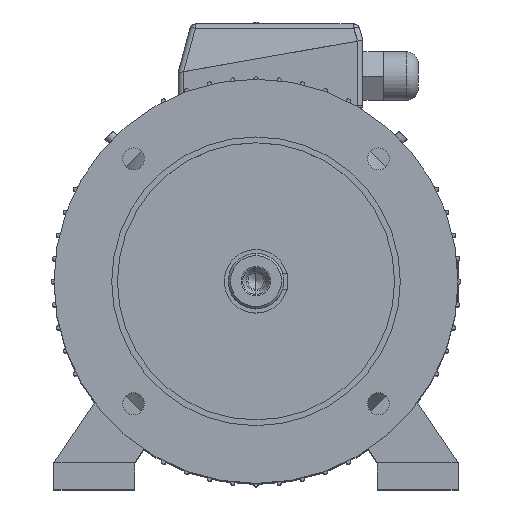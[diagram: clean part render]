
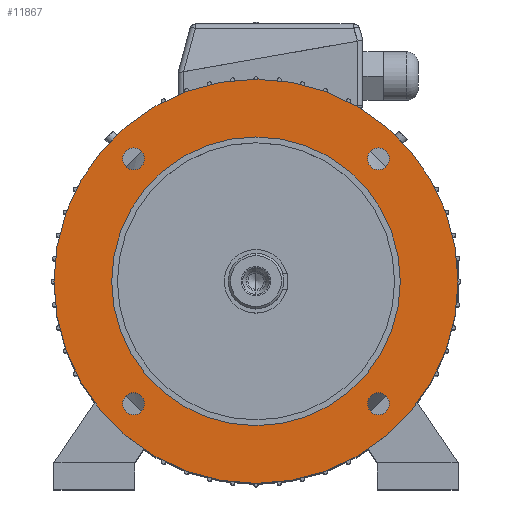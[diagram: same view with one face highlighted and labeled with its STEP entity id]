
A CAD part, top view. The second image highlights one B-rep face of the part: STEP entity #11867.
In plain terms, the highlighted planar face has unit normal (0, 0, 1).
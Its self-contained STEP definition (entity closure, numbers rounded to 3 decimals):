
#44 = VERTEX_POINT ( 'NONE', #2157 ) ;
#199 = EDGE_CURVE ( 'NONE', #8929, #10166, #2505, .T. ) ;
#225 = VERTEX_POINT ( 'NONE', #2546 ) ;
#295 = ORIENTED_EDGE ( 'NONE', *, *, #199, .F. ) ;
#327 = ORIENTED_EDGE ( 'NONE', *, *, #13555, .F. ) ;
#421 = EDGE_LOOP ( 'NONE', ( #295, #1469 ) ) ;
#974 = ORIENTED_EDGE ( 'NONE', *, *, #1853, .F. ) ;
#1049 = VERTEX_POINT ( 'NONE', #4289 ) ;
#1107 = EDGE_CURVE ( 'NONE', #1349, #1049, #4435, .T. ) ;
#1150 = EDGE_LOOP ( 'NONE', ( #974, #5405 ) ) ;
#1349 = VERTEX_POINT ( 'NONE', #4927 ) ;
#1469 = ORIENTED_EDGE ( 'NONE', *, *, #9182, .F. ) ;
#1651 = EDGE_LOOP ( 'NONE', ( #3803, #327 ) ) ;
#1704 = ORIENTED_EDGE ( 'NONE', *, *, #1107, .F. ) ;
#1853 = EDGE_CURVE ( 'NONE', #44, #12759, #6152, .T. ) ;
#2059 = ORIENTED_EDGE ( 'NONE', *, *, #7957, .F. ) ;
#2157 = CARTESIAN_POINT ( 'NONE',  ( 125., 0., 81. ) ) ;
#2505 = CIRCLE ( 'NONE', #2506, 9.5 ) ;
#2506 = AXIS2_PLACEMENT_3D ( 'NONE', #2507, #2508, #2509 ) ;
#2507 = CARTESIAN_POINT ( 'NONE',  ( -106.066, 106.066, 81. ) ) ;
#2508 = DIRECTION ( 'NONE',  ( 0., 0., 1. ) ) ;
#2509 = DIRECTION ( 'NONE',  ( 1., 0., 0. ) ) ;
#2546 = CARTESIAN_POINT ( 'NONE',  ( -115.566, -106.066, 81. ) ) ;
#2634 = EDGE_CURVE ( 'NONE', #7702, #8951, #6865, .T. ) ;
#3010 = ORIENTED_EDGE ( 'NONE', *, *, #2634, .F. ) ;
#3612 = EDGE_CURVE ( 'NONE', #13496, #225, #7407, .T. ) ;
#3803 = ORIENTED_EDGE ( 'NONE', *, *, #3612, .F. ) ;
#4289 = CARTESIAN_POINT ( 'NONE',  ( 115.566, 106.066, 81. ) ) ;
#4435 = CIRCLE ( 'NONE', #4436, 9.5 ) ;
#4436 = AXIS2_PLACEMENT_3D ( 'NONE', #4437, #4438, #4439 ) ;
#4437 = CARTESIAN_POINT ( 'NONE',  ( 106.066, 106.066, 81. ) ) ;
#4438 = DIRECTION ( 'NONE',  ( 0., 0., 1. ) ) ;
#4439 = DIRECTION ( 'NONE',  ( 1., 0., 0. ) ) ;
#4927 = CARTESIAN_POINT ( 'NONE',  ( 96.566, 106.066, 81. ) ) ;
#5028 = EDGE_CURVE ( 'NONE', #12759, #44, #8357, .T. ) ;
#5067 = ORIENTED_EDGE ( 'NONE', *, *, #8492, .T. ) ;
#5405 = ORIENTED_EDGE ( 'NONE', *, *, #5028, .F. ) ;
#5467 = ORIENTED_EDGE ( 'NONE', *, *, #8077, .T. ) ;
#6057 = EDGE_LOOP ( 'NONE', ( #5467, #5067 ) ) ;
#6152 = CIRCLE ( 'NONE', #6153, 125. ) ;
#6153 = AXIS2_PLACEMENT_3D ( 'NONE', #6154, #6155, #6156 ) ;
#6154 = CARTESIAN_POINT ( 'NONE',  ( 0., 0., 81. ) ) ;
#6155 = DIRECTION ( 'NONE',  ( 0., 0., 1. ) ) ;
#6156 = DIRECTION ( 'NONE',  ( 1., 0., 0. ) ) ;
#6437 = EDGE_CURVE ( 'NONE', #1049, #1349, #9101, .T. ) ;
#6774 = EDGE_LOOP ( 'NONE', ( #6852, #1704 ) ) ;
#6852 = ORIENTED_EDGE ( 'NONE', *, *, #6437, .F. ) ;
#6865 = CIRCLE ( 'NONE', #6866, 9.5 ) ;
#6866 = AXIS2_PLACEMENT_3D ( 'NONE', #6867, #6868, #6869 ) ;
#6867 = CARTESIAN_POINT ( 'NONE',  ( 106.066, -106.066, 81. ) ) ;
#6868 = DIRECTION ( 'NONE',  ( 0., 0., 1. ) ) ;
#6869 = DIRECTION ( 'NONE',  ( 1., 0., 0. ) ) ;
#7289 = CARTESIAN_POINT ( 'NONE',  ( -175., 0., 81. ) ) ;
#7407 = CIRCLE ( 'NONE', #7408, 9.5 ) ;
#7408 = AXIS2_PLACEMENT_3D ( 'NONE', #7409, #7410, #7411 ) ;
#7409 = CARTESIAN_POINT ( 'NONE',  ( -106.066, -106.066, 81. ) ) ;
#7410 = DIRECTION ( 'NONE',  ( 0., 0., 1. ) ) ;
#7411 = DIRECTION ( 'NONE',  ( 1., 0., 0. ) ) ;
#7412 = CARTESIAN_POINT ( 'NONE',  ( -96.566, -106.066, 81. ) ) ;
#7702 = VERTEX_POINT ( 'NONE', #9762 ) ;
#7709 = CIRCLE ( 'NONE', #7710, 9.5 ) ;
#7710 = AXIS2_PLACEMENT_3D ( 'NONE', #7711, #7712, #7713 ) ;
#7711 = CARTESIAN_POINT ( 'NONE',  ( -106.066, -106.066, 81. ) ) ;
#7712 = DIRECTION ( 'NONE',  ( 0., 0., 1. ) ) ;
#7713 = DIRECTION ( 'NONE',  ( 1., 0., 0. ) ) ;
#7828 = VERTEX_POINT ( 'NONE', #9832 ) ;
#7957 = EDGE_CURVE ( 'NONE', #8951, #7702, #9911, .T. ) ;
#8077 = EDGE_CURVE ( 'NONE', #7828, #13469, #9976, .T. ) ;
#8223 = EDGE_LOOP ( 'NONE', ( #3010, #2059 ) ) ;
#8357 = CIRCLE ( 'NONE', #8358, 125. ) ;
#8358 = AXIS2_PLACEMENT_3D ( 'NONE', #8359, #8360, #8361 ) ;
#8359 = CARTESIAN_POINT ( 'NONE',  ( 0., 0., 81. ) ) ;
#8360 = DIRECTION ( 'NONE',  ( 0., 0., 1. ) ) ;
#8361 = DIRECTION ( 'NONE',  ( 1., 0., 0. ) ) ;
#8492 = EDGE_CURVE ( 'NONE', #13469, #7828, #10179, .T. ) ;
#8929 = VERTEX_POINT ( 'NONE', #10390 ) ;
#8951 = VERTEX_POINT ( 'NONE', #10397 ) ;
#9101 = CIRCLE ( 'NONE', #9102, 9.5 ) ;
#9102 = AXIS2_PLACEMENT_3D ( 'NONE', #9103, #9104, #9105 ) ;
#9103 = CARTESIAN_POINT ( 'NONE',  ( 106.066, 106.066, 81. ) ) ;
#9104 = DIRECTION ( 'NONE',  ( 0., 0., 1. ) ) ;
#9105 = DIRECTION ( 'NONE',  ( 1., 0., 0. ) ) ;
#9182 = EDGE_CURVE ( 'NONE', #10166, #8929, #10495, .T. ) ;
#9762 = CARTESIAN_POINT ( 'NONE',  ( 115.566, -106.066, 81. ) ) ;
#9832 = CARTESIAN_POINT ( 'NONE',  ( 175., 0., 81. ) ) ;
#9911 = CIRCLE ( 'NONE', #9912, 9.5 ) ;
#9912 = AXIS2_PLACEMENT_3D ( 'NONE', #9913, #9914, #9915 ) ;
#9913 = CARTESIAN_POINT ( 'NONE',  ( 106.066, -106.066, 81. ) ) ;
#9914 = DIRECTION ( 'NONE',  ( 0., 0., 1. ) ) ;
#9915 = DIRECTION ( 'NONE',  ( 1., 0., 0. ) ) ;
#9976 = CIRCLE ( 'NONE', #9977, 175. ) ;
#9977 = AXIS2_PLACEMENT_3D ( 'NONE', #9978, #9979, #9980 ) ;
#9978 = CARTESIAN_POINT ( 'NONE',  ( 0., 0., 81. ) ) ;
#9979 = DIRECTION ( 'NONE',  ( 0., 0., 1. ) ) ;
#9980 = DIRECTION ( 'NONE',  ( 1., 0., 0. ) ) ;
#10166 = VERTEX_POINT ( 'NONE', #11088 ) ;
#10179 = CIRCLE ( 'NONE', #10180, 175. ) ;
#10180 = AXIS2_PLACEMENT_3D ( 'NONE', #10181, #10182, #10186 ) ;
#10181 = CARTESIAN_POINT ( 'NONE',  ( 0., 0., 81. ) ) ;
#10182 = DIRECTION ( 'NONE',  ( 0., 0., 1. ) ) ;
#10186 = DIRECTION ( 'NONE',  ( 1., 0., 0. ) ) ;
#10390 = CARTESIAN_POINT ( 'NONE',  ( -96.566, 106.066, 81. ) ) ;
#10397 = CARTESIAN_POINT ( 'NONE',  ( 96.566, -106.066, 81. ) ) ;
#10495 = CIRCLE ( 'NONE', #10496, 9.5 ) ;
#10496 = AXIS2_PLACEMENT_3D ( 'NONE', #10497, #10498, #10499 ) ;
#10497 = CARTESIAN_POINT ( 'NONE',  ( -106.066, 106.066, 81. ) ) ;
#10498 = DIRECTION ( 'NONE',  ( 0., 0., 1. ) ) ;
#10499 = DIRECTION ( 'NONE',  ( 1., 0., 0. ) ) ;
#11088 = CARTESIAN_POINT ( 'NONE',  ( -115.566, 106.066, 81. ) ) ;
#11867 = ADVANCED_FACE ( 'NONE', ( #12041, #12042, #12043, #12044, #12045, #12046 ), #12047, .F. ) ;
#12041 = FACE_BOUND ( 'NONE', #6774, .T. ) ;
#12042 = FACE_BOUND ( 'NONE', #1651, .T. ) ;
#12043 = FACE_BOUND ( 'NONE', #1150, .T. ) ;
#12044 = FACE_OUTER_BOUND ( 'NONE', #6057, .T. ) ;
#12045 = FACE_BOUND ( 'NONE', #8223, .T. ) ;
#12046 = FACE_BOUND ( 'NONE', #421, .T. ) ;
#12047 = PLANE ( 'NONE',  #12048 ) ;
#12048 = AXIS2_PLACEMENT_3D ( 'NONE', #12049, #12050, #12051 ) ;
#12049 = CARTESIAN_POINT ( 'NONE',  ( 0., 175., 81. ) ) ;
#12050 = DIRECTION ( 'NONE',  ( 0., 0., -1. ) ) ;
#12051 = DIRECTION ( 'NONE',  ( -1., 0., 0. ) ) ;
#12525 = CARTESIAN_POINT ( 'NONE',  ( -125., 0., 81. ) ) ;
#12759 = VERTEX_POINT ( 'NONE', #12525 ) ;
#13469 = VERTEX_POINT ( 'NONE', #7289 ) ;
#13496 = VERTEX_POINT ( 'NONE', #7412 ) ;
#13555 = EDGE_CURVE ( 'NONE', #225, #13496, #7709, .T. ) ;
